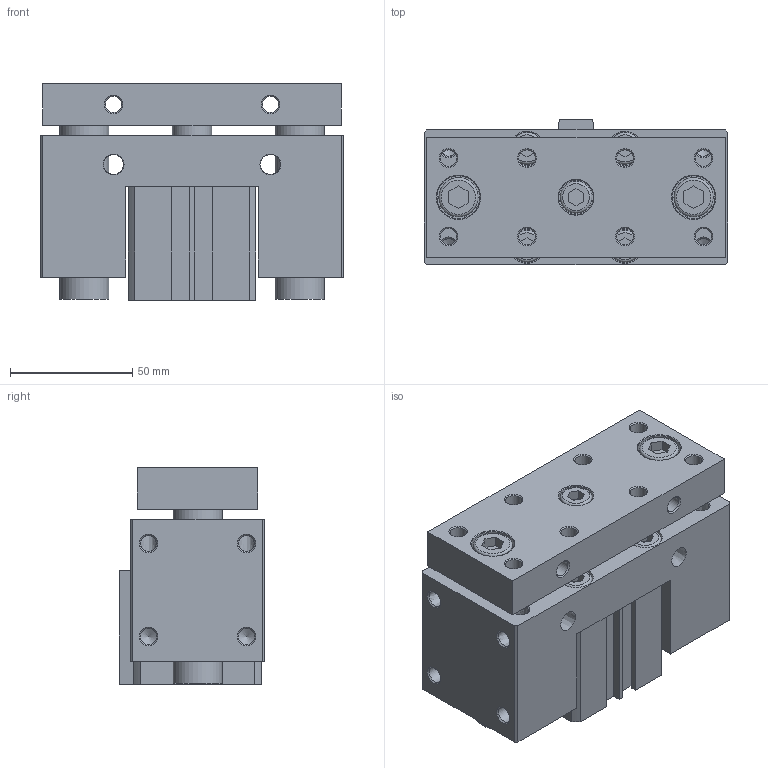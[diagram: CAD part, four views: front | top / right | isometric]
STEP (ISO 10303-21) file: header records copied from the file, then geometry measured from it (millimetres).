
FILE_DESCRIPTION((''),'2;1');
FILE_NAME('I:\3D電子目錄\氣缸\JCB\JCB\JCB40-S\JCB40x10-S.stp','2007-08-23T20:13:19',('Administrator'),(''),'Autodesk Inventor 11','Autodesk Inventor 11','');
FILE_SCHEMA(('AUTOMOTIVE_DESIGN { 1 0 10303 214 1 1 1 1 }'));
Length unit declared in the file: millimetre
Products named in the file (1): JCB40
Bounding box: 124 x 59.5 x 88.5 mm (x, y, z)
Volume: 465608.9 mm3; surface area: 107494.6 mm2
Topology: 3 solids, 3 shells, 303 faces, 731 edges, 473 vertices
Faces by surface type: plane 163, cylinder 52, cone 47, bspline 33, torus 8
Full cylindrical faces by diameter (mm): 2.2 x2, 6.647 x4, 6.8 x4, 10 x8, 13 x5, 14 x5, 16 x3, 17 x1, 17.5 x2, 20 x2, 23 x2, 28 x1, 29 x1, 42 x4, 44.5 x2
Entity records: 8528 total; most frequent: CARTESIAN_POINT 2090, DIRECTION 1302, ORIENTED_EDGE 1114, EDGE_CURVE 557, EDGE_LOOP 522, AXIS2_PLACEMENT_3D 480, VERTEX_POINT 435, VECTOR 342
